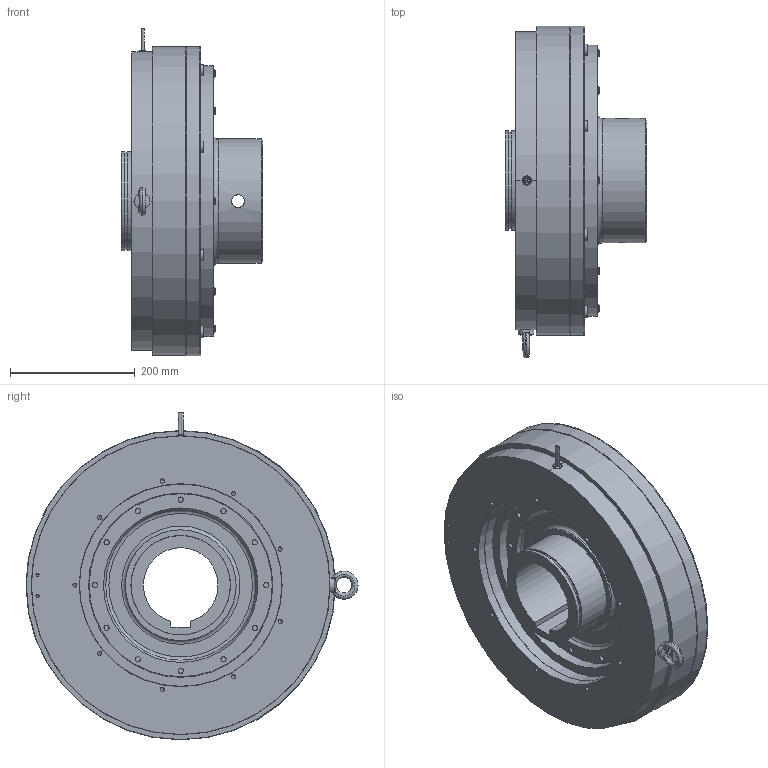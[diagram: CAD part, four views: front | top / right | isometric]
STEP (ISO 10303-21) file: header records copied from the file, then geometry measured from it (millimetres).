
FILE_DESCRIPTION(/* description */ (''),/* implementation_level */ '2;1');
FILE_NAME(/* name */ 'X:\INVENTOR\DISEGNI\08_Freni_Friz_Elettmag_Monodisco\08_26 EMSL_DF\EMSL_DF STEP\08_26_500_22 EMSL500_DF-BM-ME@STEP.stp',/* time_stamp */ '2018-04-24T09:10:09+02:00',/* author */ ('stefano'),/* organization */ (''),/* preprocessor_version */ 'ST-DEVELOPER v17',/* originating_system */ 'Autodesk Inventor 2018',/* authorisation */ '');
FILE_SCHEMA (('AUTOMOTIVE_DESIGN { 1 0 10303 214 3 1 1 }'));
Length unit declared in the file: millimetre
Products named in the file (1): 08_26_500_22 EMSL500_DF-BM-ME_Substitute_1
Bounding box: 228 x 533.3 x 526.52 mm (x, y, z)
Volume: 16957500.3 mm3; surface area: 1766189.1 mm2
Topology: 3 solids, 3 shells, 752 faces, 2184 edges, 1489 vertices
Faces by surface type: cylinder 347, plane 283, cone 90, torus 25, bspline 7
Full cylindrical faces by diameter (mm): 4.917 x2, 5 x16, 6.647 x9, 8.376 x12, 12 x8, 15 x1, 16 x12, 18 x24, 20 x16, 20.752 x2, 95 x8, 155 x1, 160 x3, 178 x1, 200 x1, 250 x1, 294 x1, 296 x1, 302 x1, 315 x1, 324 x1, 325 x1, 325.3 x1, 326.1 x1, 368 x1, 435 x1, 458 x1, 480.4 x1, 496 x1, 497 x2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
Entity records: 27125 total; most frequent: CARTESIAN_POINT 5650, DIRECTION 4726, ORIENTED_EDGE 4310, EDGE_CURVE 2155, AXIS2_PLACEMENT_3D 2005, VERTEX_POINT 1489, CIRCLE 1241, EDGE_LOOP 982
